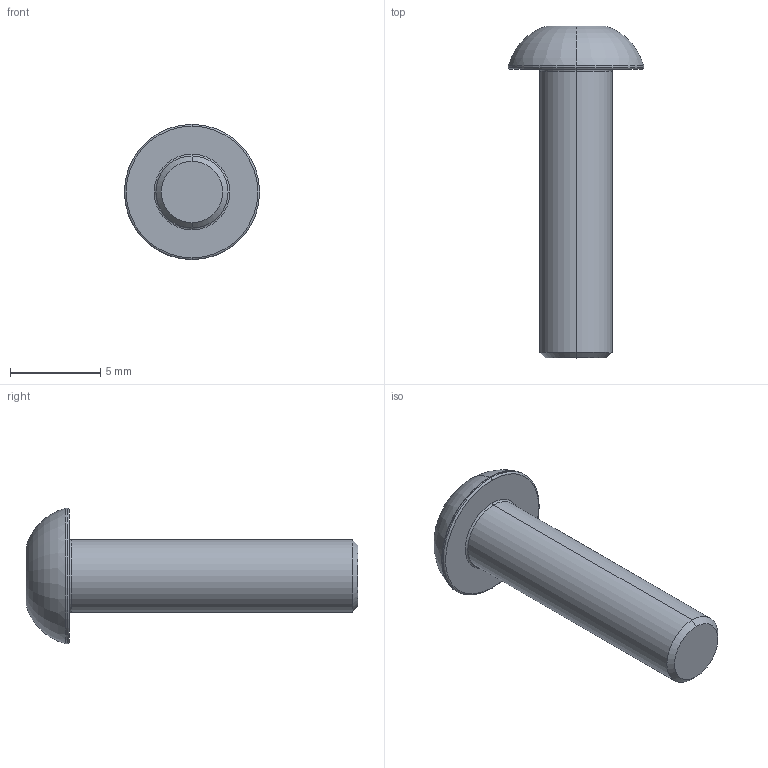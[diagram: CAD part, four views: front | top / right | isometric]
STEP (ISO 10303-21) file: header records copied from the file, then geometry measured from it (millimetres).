
FILE_DESCRIPTION (( 'STEP AP203' ), '1' );
FILE_NAME ('LGDD-TD-M4x16.STEP', '2026-08-14T01:21:43', ( '' ), ( '' ), 'SwSTEP 2.0', 'SolidWorks 2020', '' );
FILE_SCHEMA (( 'CONFIG_CONTROL_DESIGN' ));
Length unit declared in the file: millimetre
Products named in the file (1): LGDD-TD-M4x16
Bounding box: 7.5 x 18.4 x 7.5 mm (x, y, z)
Volume: 267.7 mm3; surface area: 326.8 mm2
Topology: 1 solids, 1 shells, 31 faces, 59 edges, 32 vertices
Faces by surface type: plane 10, cone 9, torus 8, cylinder 4
Entity records: 864 total; most frequent: CARTESIAN_POINT 154, DIRECTION 149, ORIENTED_EDGE 118, AXIS2_PLACEMENT_3D 65, EDGE_CURVE 59, CIRCLE 33, EDGE_LOOP 33, VERTEX_POINT 32
